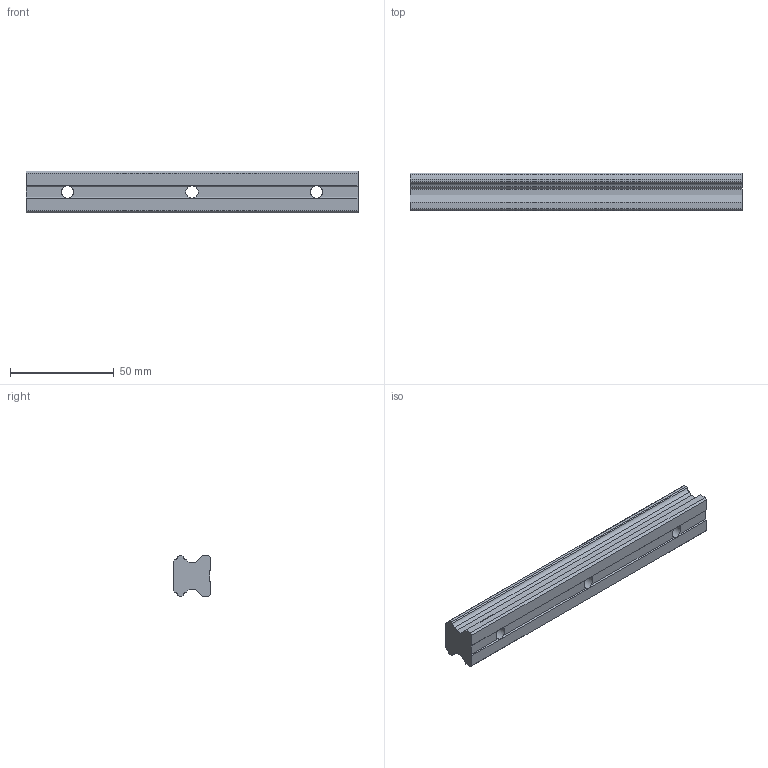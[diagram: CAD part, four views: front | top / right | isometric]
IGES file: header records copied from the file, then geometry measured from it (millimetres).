
Start section: Data from Parasolid IGES Translator 26.0.171, Copyright(c) 2006 Siemens PLM Software. All Rights Reserved.
Global section: file name: HSR20-160L(GK) RAIL(20).igs; native system: By Siemens PLM Incorporated; preprocessor: XPlus GENERIC/IGES 26.0.171; author: Noname; organization: Noname; date: 20240521.044403; units: millimetre
Bounding box: 160 x 18 x 20 mm (x, y, z)
Surface area: 14233.6 mm2 (no closed solid volume)
Topology: 0 solids, 0 shells, 48 faces, 258 edges, 249 vertices
Faces by surface type: extrusion 38, revolution 10
